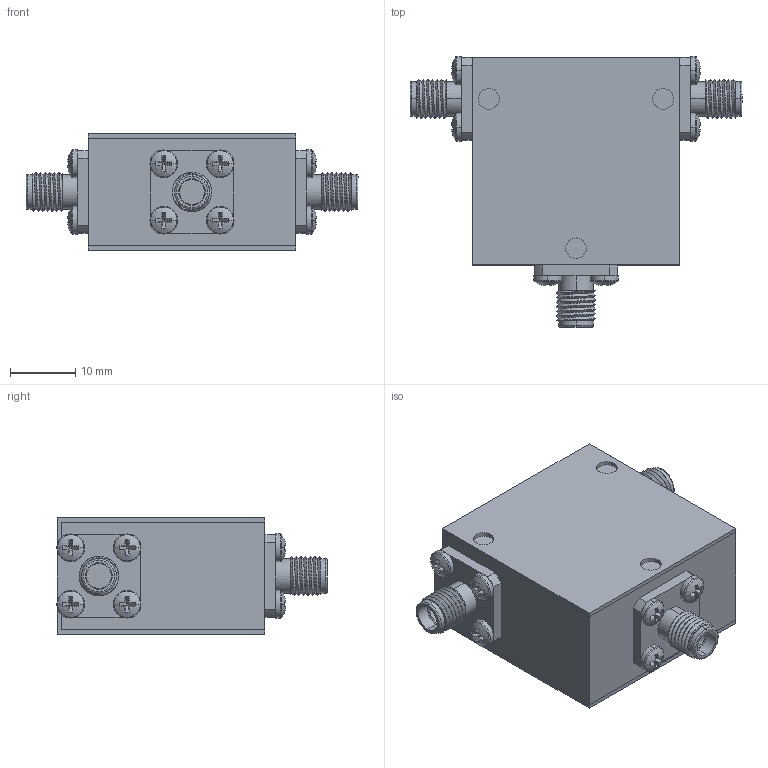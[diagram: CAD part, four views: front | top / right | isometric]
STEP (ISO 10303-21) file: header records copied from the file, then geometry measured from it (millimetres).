
FILE_DESCRIPTION (( 'STEP AP214' ), '1' );
FILE_NAME ('Package 2 Circ FFF.step', '2021-12-01T20:59:19', ( '' ), ( '' ), 'SwSTEP 2.0', 'SolidWorks 2016', '' );
FILE_SCHEMA (( 'AUTOMOTIVE_DESIGN' ));
Length unit declared in the file: inch
Products named in the file (5): Package Size 2; Package 2; pan cross head_ai_CR-PHMS 0.086-56x0.125x0.125-N; Package 2 Circ FFF; Delta SMA-Female 0.500 flange Threaded
Assembly tree (17 placements, depth 2):
  Package 2 Circ FFF
    Package Size 2
    Package 2
    Delta SMA-Female 0.500 flange Threaded  x3
    pan cross head_ai_CR-PHMS 0.086-56x0.125x0.125-N  x12
Bounding box: 50.8 x 41.36 x 17.78 mm (x, y, z)
Volume: 19101.7 mm3; surface area: 12085.5 mm2
Topology: 17 solids, 17 shells, 421 faces, 957 edges, 591 vertices
Faces by surface type: plane 232, cylinder 126, torus 30, sphere 24, bspline 9
Entity records: 3729 total; most frequent: CARTESIAN_POINT 1205, DIRECTION 527, ORIENTED_EDGE 434, EDGE_CURVE 217, AXIS2_PLACEMENT_3D 211, VERTEX_POINT 139, EDGE_LOOP 116, VECTOR 105
